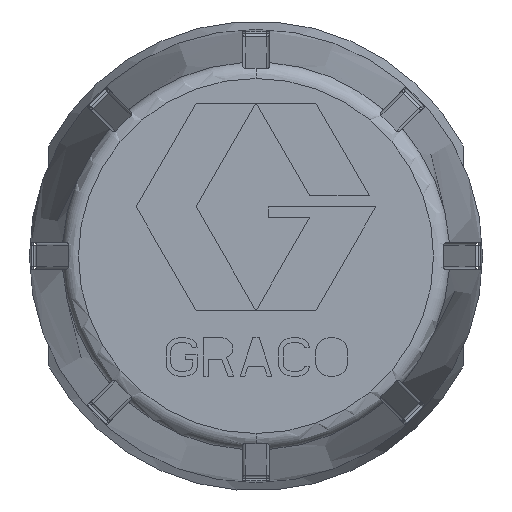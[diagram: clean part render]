
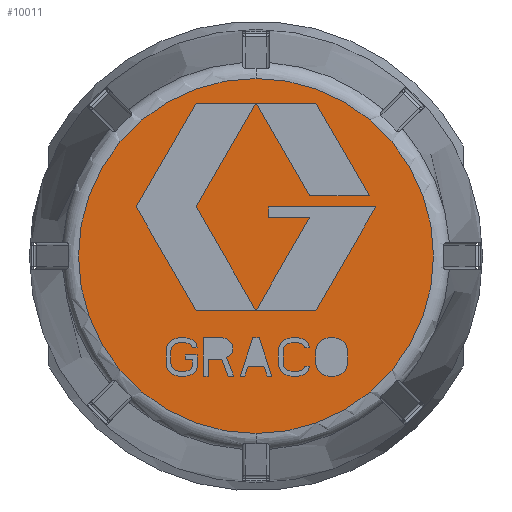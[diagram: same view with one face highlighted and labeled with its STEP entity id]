
A CAD part, front view. The second image highlights one B-rep face of the part: STEP entity #10011.
In plain terms, the highlighted planar face has unit normal (0, -1, 0).
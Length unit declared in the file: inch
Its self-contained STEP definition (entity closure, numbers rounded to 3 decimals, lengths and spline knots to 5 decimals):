
#6120=CARTESIAN_POINT('',(0.,-6.1755,0.));
#6121=DIRECTION('',(0.,-1.,0.));
#6122=DIRECTION('',(0.,0.,1.));
#6123=AXIS2_PLACEMENT_3D('',#6120,#6121,#6122);
#6125=CARTESIAN_POINT('',(0.,-6.1755,0.));
#6126=DIRECTION('',(0.,1.,0.));
#6127=DIRECTION('',(0.,0.,1.));
#6128=AXIS2_PLACEMENT_3D('',#6125,#6126,#6127);
#8847=CARTESIAN_POINT('',(0.,-6.1755,1.01616));
#8848=CARTESIAN_POINT('',(0.,-6.1755,-1.01616));
#8849=VERTEX_POINT('',#8847);
#8850=VERTEX_POINT('',#8848);
#10000=CARTESIAN_POINT('',(0.,-6.1755,0.));
#10001=DIRECTION('',(0.,1.,0.));
#10002=DIRECTION('',(0.,0.,-1.));
#10003=AXIS2_PLACEMENT_3D('',#10000,#10001,#10002);
#10004=PLANE('',#10003);
#10006=ORIENTED_EDGE('',*,*,#10005,.F.);
#10008=ORIENTED_EDGE('',*,*,#10007,.T.);
#10009=EDGE_LOOP('',(#10006,#10008));
#10010=FACE_OUTER_BOUND('',#10009,.F.);
#10011=ADVANCED_FACE('',(#10010),#10004,.F.);
#6124=CIRCLE('',#6123,1.01616);
#6129=CIRCLE('',#6128,1.01616);
#10005=EDGE_CURVE('',#8849,#8850,#6124,.T.);
#10007=EDGE_CURVE('',#8849,#8850,#6129,.T.);
